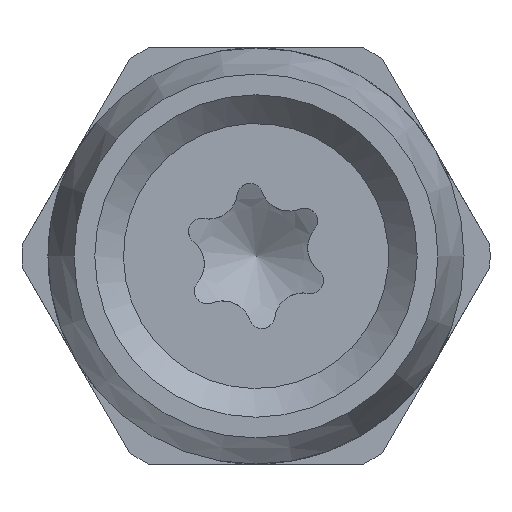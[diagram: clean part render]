
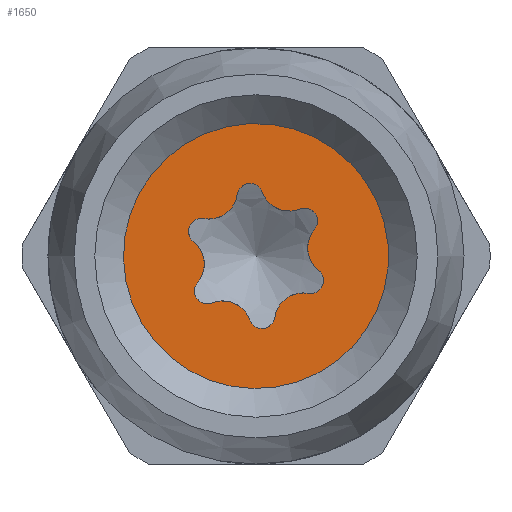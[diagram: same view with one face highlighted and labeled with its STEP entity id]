
A CAD part, front view. The second image highlights one B-rep face of the part: STEP entity #1650.
In plain terms, the highlighted planar face has unit normal (0, -1, 0).
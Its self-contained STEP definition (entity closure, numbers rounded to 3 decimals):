
#318=FACE_BOUND('',#490,.T.);
#390=FACE_OUTER_BOUND('',#489,.T.);
#489=EDGE_LOOP('',(#1392,#1393));
#490=EDGE_LOOP('',(#1394,#1395,#1396,#1397,#1398,#1399,#1400,#1401,#1402,
#1403,#1404,#1405));
#592=CIRCLE('',#1843,2.548);
#593=CIRCLE('',#1844,2.548);
#594=CIRCLE('',#1850,0.55);
#595=CIRCLE('',#1851,0.25);
#596=CIRCLE('',#1852,0.55);
#597=CIRCLE('',#1853,0.25);
#598=CIRCLE('',#1854,0.55);
#599=CIRCLE('',#1855,0.25);
#600=CIRCLE('',#1856,0.55);
#601=CIRCLE('',#1857,0.25);
#602=CIRCLE('',#1858,0.55);
#603=CIRCLE('',#1859,0.25);
#604=CIRCLE('',#1860,0.55);
#605=CIRCLE('',#1861,0.25);
#742=VERTEX_POINT('',#3127);
#743=VERTEX_POINT('',#3129);
#744=VERTEX_POINT('',#3138);
#745=VERTEX_POINT('',#3139);
#746=VERTEX_POINT('',#3141);
#747=VERTEX_POINT('',#3143);
#748=VERTEX_POINT('',#3145);
#749=VERTEX_POINT('',#3147);
#750=VERTEX_POINT('',#3149);
#751=VERTEX_POINT('',#3151);
#752=VERTEX_POINT('',#3153);
#753=VERTEX_POINT('',#3155);
#754=VERTEX_POINT('',#3157);
#755=VERTEX_POINT('',#3159);
#964=EDGE_CURVE('',#742,#743,#592,.T.);
#965=EDGE_CURVE('',#743,#742,#593,.T.);
#967=EDGE_CURVE('',#744,#745,#594,.T.);
#968=EDGE_CURVE('',#745,#746,#595,.T.);
#969=EDGE_CURVE('',#746,#747,#596,.T.);
#970=EDGE_CURVE('',#747,#748,#597,.T.);
#971=EDGE_CURVE('',#748,#749,#598,.T.);
#972=EDGE_CURVE('',#749,#750,#599,.T.);
#973=EDGE_CURVE('',#750,#751,#600,.T.);
#974=EDGE_CURVE('',#751,#752,#601,.T.);
#975=EDGE_CURVE('',#752,#753,#602,.T.);
#976=EDGE_CURVE('',#753,#754,#603,.T.);
#977=EDGE_CURVE('',#754,#755,#604,.T.);
#978=EDGE_CURVE('',#755,#744,#605,.T.);
#1392=ORIENTED_EDGE('',*,*,#965,.F.);
#1393=ORIENTED_EDGE('',*,*,#964,.F.);
#1394=ORIENTED_EDGE('',*,*,#967,.T.);
#1395=ORIENTED_EDGE('',*,*,#968,.T.);
#1396=ORIENTED_EDGE('',*,*,#969,.T.);
#1397=ORIENTED_EDGE('',*,*,#970,.T.);
#1398=ORIENTED_EDGE('',*,*,#971,.T.);
#1399=ORIENTED_EDGE('',*,*,#972,.T.);
#1400=ORIENTED_EDGE('',*,*,#973,.T.);
#1401=ORIENTED_EDGE('',*,*,#974,.T.);
#1402=ORIENTED_EDGE('',*,*,#975,.T.);
#1403=ORIENTED_EDGE('',*,*,#976,.T.);
#1404=ORIENTED_EDGE('',*,*,#977,.T.);
#1405=ORIENTED_EDGE('',*,*,#978,.T.);
#1510=PLANE('',#1849);
#1650=ADVANCED_FACE('',(#390,#318),#1510,.T.);
#1843=AXIS2_PLACEMENT_3D('',#3130,#2270,#2271);
#1844=AXIS2_PLACEMENT_3D('',#3131,#2272,#2273);
#1849=AXIS2_PLACEMENT_3D('',#3137,#2283,#2284);
#1850=AXIS2_PLACEMENT_3D('',#3140,#2285,#2286);
#1851=AXIS2_PLACEMENT_3D('',#3142,#2287,#2288);
#1852=AXIS2_PLACEMENT_3D('',#3144,#2289,#2290);
#1853=AXIS2_PLACEMENT_3D('',#3146,#2291,#2292);
#1854=AXIS2_PLACEMENT_3D('',#3148,#2293,#2294);
#1855=AXIS2_PLACEMENT_3D('',#3150,#2295,#2296);
#1856=AXIS2_PLACEMENT_3D('',#3152,#2297,#2298);
#1857=AXIS2_PLACEMENT_3D('',#3154,#2299,#2300);
#1858=AXIS2_PLACEMENT_3D('',#3156,#2301,#2302);
#1859=AXIS2_PLACEMENT_3D('',#3158,#2303,#2304);
#1860=AXIS2_PLACEMENT_3D('',#3160,#2305,#2306);
#1861=AXIS2_PLACEMENT_3D('',#3161,#2307,#2308);
#2270=DIRECTION('center_axis',(0.,1.,0.));
#2271=DIRECTION('ref_axis',(0.5,0.,0.866));
#2272=DIRECTION('center_axis',(0.,1.,0.));
#2273=DIRECTION('ref_axis',(0.5,0.,0.866));
#2283=DIRECTION('center_axis',(0.,-1.,0.));
#2284=DIRECTION('ref_axis',(0.911,0.,-0.412));
#2285=DIRECTION('center_axis',(0.,-1.,0.));
#2286=DIRECTION('ref_axis',(0.412,0.,0.911));
#2287=DIRECTION('center_axis',(0.,1.,0.));
#2288=DIRECTION('ref_axis',(-0.412,0.,-0.911));
#2289=DIRECTION('center_axis',(0.,-1.,0.));
#2290=DIRECTION('ref_axis',(-0.412,0.,-0.911));
#2291=DIRECTION('center_axis',(0.,1.,0.));
#2292=DIRECTION('ref_axis',(-0.412,0.,-0.911));
#2293=DIRECTION('center_axis',(0.,-1.,0.));
#2294=DIRECTION('ref_axis',(-0.412,0.,-0.911));
#2295=DIRECTION('center_axis',(0.,1.,0.));
#2296=DIRECTION('ref_axis',(-0.412,0.,-0.911));
#2297=DIRECTION('center_axis',(0.,-1.,0.));
#2298=DIRECTION('ref_axis',(-0.412,0.,-0.911));
#2299=DIRECTION('center_axis',(0.,1.,0.));
#2300=DIRECTION('ref_axis',(-0.412,0.,-0.911));
#2301=DIRECTION('center_axis',(0.,-1.,0.));
#2302=DIRECTION('ref_axis',(0.412,0.,0.911));
#2303=DIRECTION('center_axis',(0.,1.,0.));
#2304=DIRECTION('ref_axis',(0.412,0.,0.911));
#2305=DIRECTION('center_axis',(0.,-1.,0.));
#2306=DIRECTION('ref_axis',(0.412,0.,0.911));
#2307=DIRECTION('center_axis',(0.,1.,0.));
#2308=DIRECTION('ref_axis',(0.412,0.,0.911));
#3127=CARTESIAN_POINT('',(-1.274,-1.598,-2.207));
#3129=CARTESIAN_POINT('',(2.322,-1.598,-1.05));
#3130=CARTESIAN_POINT('Origin',(0.,-1.598,
0.));
#3131=CARTESIAN_POINT('Origin',(0.,-1.598,
0.));
#3137=CARTESIAN_POINT('Origin',(-1.161,-1.598,0.525));
#3138=CARTESIAN_POINT('',(1.125,-1.598,0.509));
#3139=CARTESIAN_POINT('',(1.203,-1.598,-0.278));
#3140=CARTESIAN_POINT('Origin',(1.545,-1.598,0.153));
#3141=CARTESIAN_POINT('',(1.003,-1.598,-0.72));
#3142=CARTESIAN_POINT('Origin',(1.048,-1.598,-0.474));
#3143=CARTESIAN_POINT('',(0.361,-1.598,-1.181));
#3144=CARTESIAN_POINT('Origin',(0.905,-1.598,-1.261));
#3145=CARTESIAN_POINT('',(-0.122,-1.598,-1.229));
#3146=CARTESIAN_POINT('Origin',(0.114,-1.598,-1.144));
#3147=CARTESIAN_POINT('',(-0.842,-1.598,-0.903));
#3148=CARTESIAN_POINT('Origin',(-0.639,-1.598,-1.414));
#3149=CARTESIAN_POINT('',(-1.125,-1.598,-0.509));
#3150=CARTESIAN_POINT('Origin',(-0.934,-1.598,-0.671));
#3151=CARTESIAN_POINT('',(-1.203,-1.598,0.278));
#3152=CARTESIAN_POINT('Origin',(-1.545,-1.598,-0.153));
#3153=CARTESIAN_POINT('',(-1.003,-1.598,0.72));
#3154=CARTESIAN_POINT('Origin',(-1.048,-1.598,0.474));
#3155=CARTESIAN_POINT('',(-0.361,-1.598,1.181));
#3156=CARTESIAN_POINT('Origin',(-0.905,-1.598,1.261));
#3157=CARTESIAN_POINT('',(0.122,-1.598,1.229));
#3158=CARTESIAN_POINT('Origin',(-0.114,-1.598,1.144));
#3159=CARTESIAN_POINT('',(0.842,-1.598,0.903));
#3160=CARTESIAN_POINT('Origin',(0.639,-1.598,1.414));
#3161=CARTESIAN_POINT('Origin',(0.934,-1.598,0.671));
